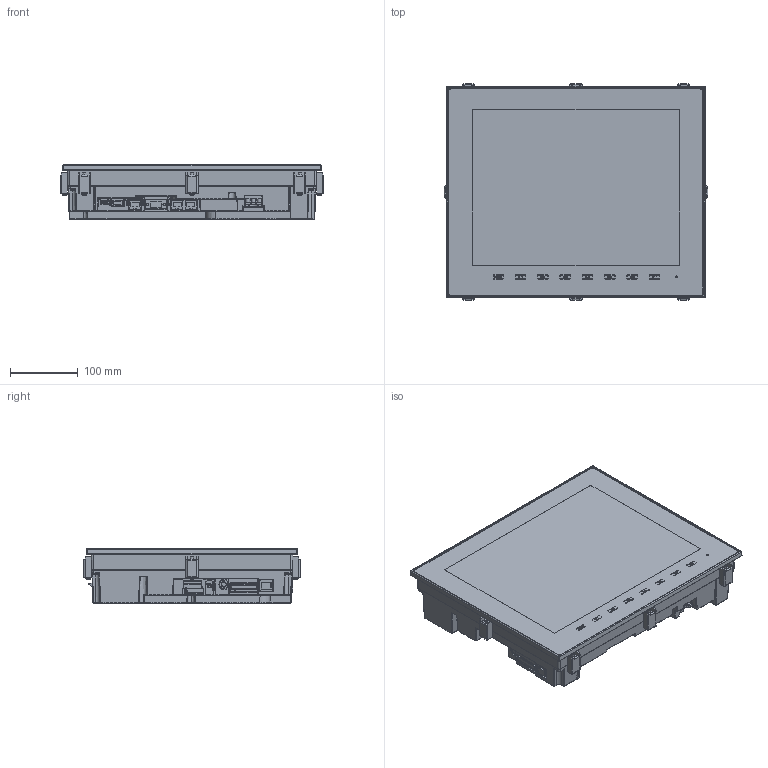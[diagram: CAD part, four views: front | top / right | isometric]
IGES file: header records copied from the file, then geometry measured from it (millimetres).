
Start section:  PTC IGES file: v915_3d-data.igs
Global section: file name: v915_3d-data.igs; native system: Pro/ENGINEER by Parametric Technology Corporation; preprocessor: 2011330; author: takahashi; organization: Unknown; date: 20150330.095925; units: millimetre
Bounding box: 389.6 x 319.6 x 80.8 mm (x, y, z)
Volume: 6421459.6 mm3; surface area: 395614.9 mm2
Topology: 1 solids, 1 shells, 4290 faces, 11491 edges, 7398 vertices
Faces by surface type: bspline 3305, revolution 968, extrusion 17
